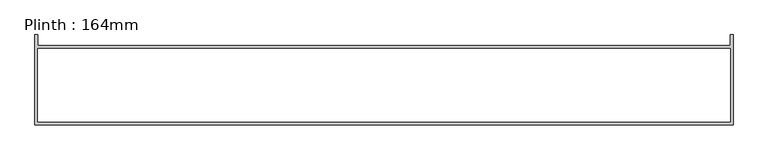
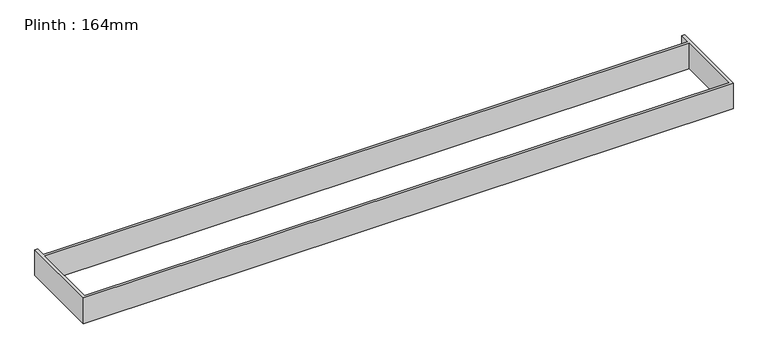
"""IFC4 building model written with IfcOpenShell, lengths in millimetres: furniture geometry, Plinth : 164mm."""

from ifc_helpers import new_model, si_unit, origin, origin_with_axes, place, context, project, spatial, polyline, outline, extrude, source, transform, mapped, element, save


def plinth_164mm_abad82ac(model_context):
    return source(origin(), model_context, "Body", "SweptSolid", [
        extrude(outline(polyline([(1994.7003264, -505.0), (-1905.2996736, -505.0), (-1905.2996736, 0.0), (-1889.2996736, 0.0), (-1889.2996736, -60.0), (-1825.2996736, -60.0), (1978.7003264, -60.0), (1978.7003264, 0.0), (1994.7003264, 0.0), (1994.7003264, -505.0)]), holes=[polyline([(1978.7003264, -76.0), (-1889.2996736, -76.0), (-1889.2996736, -489.0), (1978.7003264, -489.0), (1978.7003264, -76.0)])]), origin_with_axes(), (0.0, 0.0, 1.0), 164.0),
    ])


if __name__ == "__main__":
    model = new_model("IFC4")
    model_context = context("Model", 3, world=origin())
    ifc_project = project(units=[si_unit("LENGTHUNIT", "METRE", prefix="MILLI")], contexts=[model_context])
    site = spatial("IfcSite", under=ifc_project)
    building = spatial("IfcBuilding", under=site)
    placement = place(None, origin())
    plinth_164mm_shape = plinth_164mm_abad82ac(model_context)
    element("IfcFurniture", 1, ObjectType="Plinth : 164mm", at=placement, inside=building, context=model_context, shape_type="MappedRepresentation", body=[
        mapped(plinth_164mm_shape, transform((0.0, 0.0, 0.0), x_axis=(1.0, 0.0, 0.0), y_axis=(0.0, 1.0, 0.0), z_axis=(0.0, 0.0, 1.0))),
    ])
    save(model, "model.ifc")
